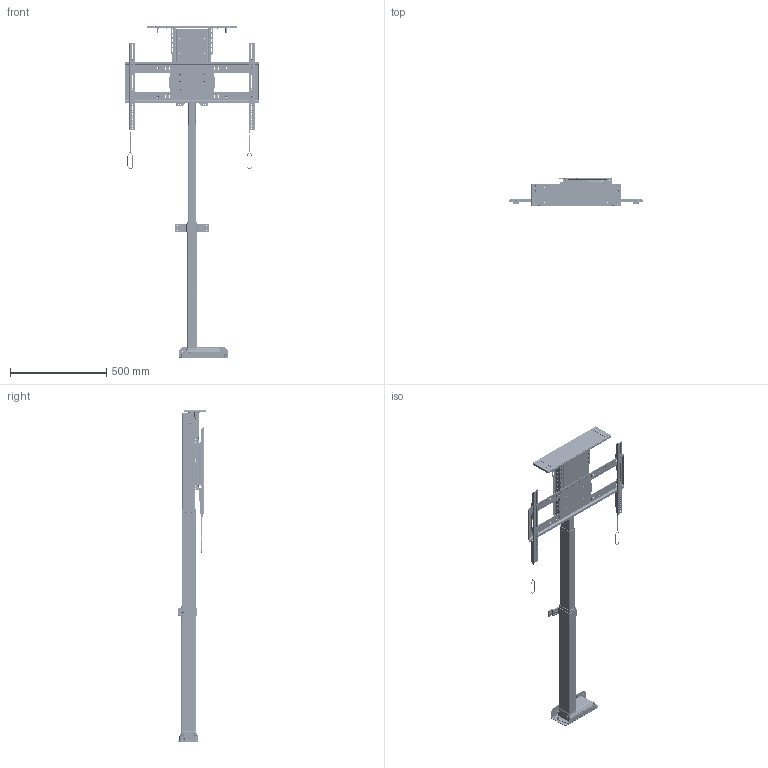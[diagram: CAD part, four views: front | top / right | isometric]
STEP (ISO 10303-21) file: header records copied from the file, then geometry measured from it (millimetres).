
FILE_DESCRIPTION(/* description */ ('STEP AP242','CAx-IF Rec.Pracs.---Representation and Presentation of Product Manufacturing Information (PMI)---4.0---2014-10-13','CAx-IF Rec.Pracs.---3D Tessellated Geometry---0.4---2014-09-14','2;1'),/* implementation_level */ '2;1');
FILE_NAME(/* name */ '63eff950e841dc28148478ad',/* time_stamp */ '2023-02-17T22:01:57+00:00',/* author */ (''),/* organization */ (''),/* preprocessor_version */ 'ST-DEVELOPER v18.102',/* originating_system */ ' ',/* authorisation */ ' ');
FILE_SCHEMA (('AP242_MANAGED_MODEL_BASED_3D_ENGINEERING_MIM_LF { 1 0 10303 442 1 1 4 }'));
Products named in the file (56): L-65/s; Hex socket countersunk head screw M6x1 x 16; Hex socket countersunk head screw M6x1 x 12; Socket button head screw M6x1 x 12; WDS8151-215; ULS-NX-108 - ULS SCREEN SUPPORT WELDMENT <1>; PEM CLS-M6-1  ; F-M6-3 M6 PEM NUT; ULS-NX-008 - UL SCREEN SUPPORT SHELL; ULS-NX-009 - ULS SCREEN SUPPORT TOP PLATE <1>; ULS-NX-009 - UL SCREEN SUPPORT TOP PLATE; Lid Plate Assembly W/ Lid Supports <1>; ULS-NX-012 - ULS LID SUPPORT W PEMS <1>; PEM CLS-M6-2  ; UL LID SUPPORT (ULS-NX-012); ULS-NX-012 - ULS LID SUPPORT W PEMS <2>; LID-FL-ULS - ULS Lid Plate Assembly <1>; ULS-NX-006 - Lid Adapter W/ Pin <1>; OLD_ULS-NX-006 - UL LID ADAPTER <1>; ULS-NX-006 - UL LID ADAPTER; FHS-273-24 PEM; FL Sub Asm <1>; 97069A106_Zinc-Plated Steel Spring Lock Washer; Plain washer large grade A M6; Hex socket countersunk head screw M6x1 x 8; ULS-NX-007 - UL LID PLATE EXTENDER; Hex nut grade C M6x1; NEX-LM-032 LID PIN GUIDE; ULS-NX-005 - UL LID PLATE W PEMS <1>; ULS-NX-005 - UL LID PLATE; PEM FHS-M6-15  ; SBP & VMB <1>; PZ Pan head screw M5x0.80 x 25; ULS-NX-017 - UL SCREEN BACK PLATE; Lanyard; ULS-NX-118 - UL VMB WELDMENT <2>; Socket button head cap screw #6-32 x 0.188; VMB Washer; ULS-NX-019 - UL LEVEL ADJUSTMENT PLATE; PEM BSO-632-10  ZI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
Assembly tree (168 placements, depth 6):
  L-65/s
    Hex socket countersunk head screw M6x1 x 16  x4
    Hex socket countersunk head screw M6x1 x 12  x12
    Socket button head screw M6x1 x 12  x8
    WDS8151-215  x4
    ULS-NX-108 - ULS SCREEN SUPPORT WELDMENT <1>
      PEM CLS-M6-1    x32
      F-M6-3 M6 PEM NUT
      ULS-NX-008 - UL SCREEN SUPPORT SHELL
      ULS-NX-009 - ULS SCREEN SUPPORT TOP PLATE <1>
        PEM CLS-M6-1    x4
        ULS-NX-009 - UL SCREEN SUPPORT TOP PLATE
    Lid Plate Assembly W/ Lid Supports <1>
      ULS-NX-012 - ULS LID SUPPORT W PEMS <1>
        PEM CLS-M6-2    x2
        UL LID SUPPORT (ULS-NX-012)
      ULS-NX-012 - ULS LID SUPPORT W PEMS <2>
        PEM CLS-M6-2    x2
        UL LID SUPPORT (ULS-NX-012)
      LID-FL-ULS - ULS Lid Plate Assembly <1>
        ULS-NX-006 - Lid Adapter W/ Pin <1>
          OLD_ULS-NX-006 - UL LID ADAPTER <1>
            ULS-NX-006 - UL LID ADAPTER
            FHS-273-24 PEM  x2
        FL Sub Asm <1>
          97069A106_Zinc-Plated Steel Spring Lock Washer  x4
          Plain washer large grade A M6  x4
          Hex socket countersunk head screw M6x1 x 8  x4
          ULS-NX-007 - UL LID PLATE EXTENDER  x2
          Hex nut grade C M6x1  x4
          NEX-LM-032 LID PIN GUIDE  x2
          ULS-NX-005 - UL LID PLATE W PEMS <1>
            PEM CLS-M6-2    x8
            ULS-NX-005 - UL LID PLATE
            PEM FHS-M6-15    x4
    SBP & VMB <1>
      PZ Pan head screw M5x0.80 x 25  x2
      ULS-NX-017 - UL SCREEN BACK PLATE
      Lanyard  x2
      ULS-NX-118 - UL VMB WELDMENT <2>
        Socket button head cap screw #6-32 x 0.188  x2
        VMB Washer  x4
        ULS-NX-019 - UL LEVEL ADJUSTMENT PLATE
        PEM BSO-632-10  ZI  x2
        90107A012  x2
        ULS-NX-018 - UL VERICAL MOUNTING BAR
        ULS-NX-020 - UL SCREEN LOCK
      ULS-NX-118 - UL VMB WELDMENT <1>
        VMB Washer  x4
        Socket button head cap screw #6-32 x 0.188  x2
        PEM BSO-632-10  ZI  x2
        ULS-NX-020 - UL SCREEN LOCK
        ULS-NX-018 - UL VERICAL MOUNTING BAR
        90107A012  x2
        ULS-NX-019 - UL LEVEL ADJUSTMENT PLATE
    L-65 Lower Sub Assembly <1>
      ULS-NX-002 - ULS QUICK RELEASE LC MOUNT
      ULS-NX-004 - ULS COLUMN CLAMP
      ULS-NX-001 - ULS QUICK RELEASE BASE MOUNT W/ PEMS <1>
        PEM FHS-M6-12    x2
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Bounding box: 698.5 x 146.38 x 1727.68 mm (x, y, z)
Volume: 8751827.6 mm3; surface area: 1828094 mm2
Topology: 151 solids, 151 shells, 10707 faces, 28611 edges, 18547 vertices
Faces by surface type: plane 7417, cylinder 1876, cone 707, bspline 463, torus 210, sphere 34
Full cylindrical faces by diameter (mm): 2.032 x14, 2.642 x4, 3.175 x10, 3.505 x4, 4.6 x2, 4.917 x53, 5 x14, 5.026 x4, 5.08 x4, 5.277 x8, 5.3 x6, 5.385 x12, 5.41 x8, 5.6 x4, 5.613 x6, 5.944 x4, 5.994 x2, 6 x62, 6.35 x16, 6.4 x4, 6.528 x4, 6.6 x2, 6.604 x4, 6.655 x4, 6.934 x2, 6.976 x1, 7.112 x2, 7.239 x2, 7.62 x2, 7.925 x2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
Entity records: 97929 total; most frequent: CARTESIAN_POINT 19087, DIRECTION 15426, ORIENTED_EDGE 14984, EDGE_CURVE 7492, AXIS2_PLACEMENT_3D 5293, VERTEX_POINT 4979, LINE 4840, VECTOR 4840
